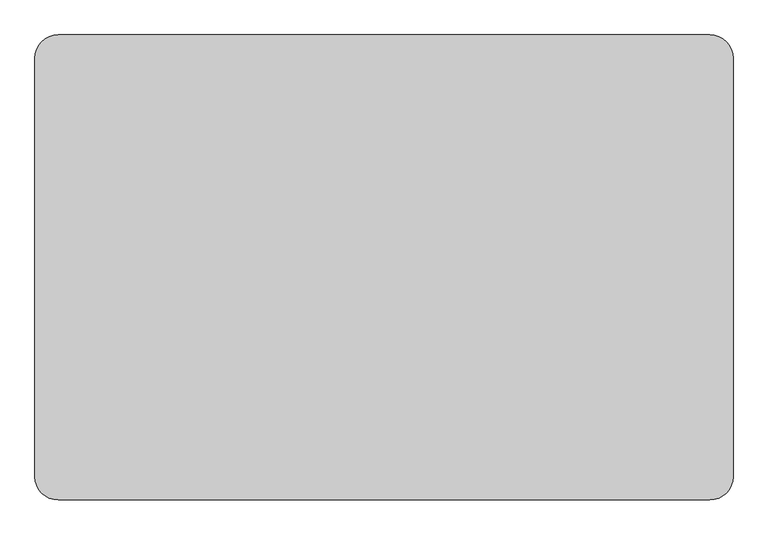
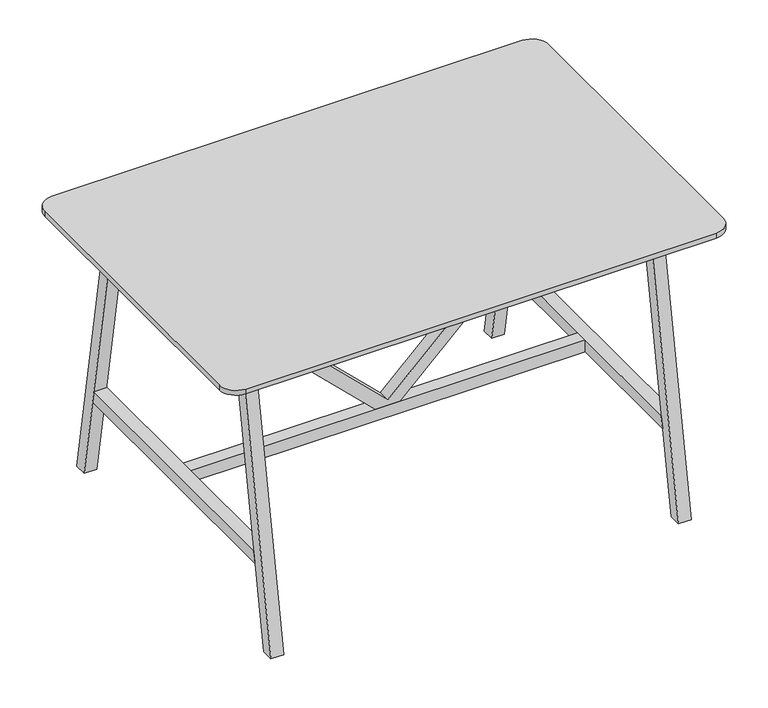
"""IFC4 building model written with IfcOpenShell, lengths in millimetres: furniture geometry, BDG_BossDesign_Tbls_AgentTables4Legs : AGE-HT-1800-1200-3D."""

from ifc_helpers import new_model, si_unit, point, frame, frame_2d, origin, place, context, project, spatial, polyline, circle_curve, trimmed, segment, composite_curve, outline, extrude, source, transform, mapped, element, save


def furniture_f843278e(model_context):
    return source(origin(), model_context, "Body", "SweptSolid", [
        extrude(outline(polyline([(1029.0, -705.0), (985.6193848, -705.0), (345.0, -44.0212994), (345.0, 44.0212994), (985.6193848, 705.0), (1029.0, 705.0), (1029.0, 685.1023991), (364.9999695, 0.0), (1029.0, -685.1023991), (1029.0, -705.0)])), frame((0.0, -22.5000305, 0.0), z_axis=(0.0, 1.0, 0.0), x_axis=(0.0, 0.0, 1.0)), (0.0, 0.0, 1.0), 45.000061),
        extrude(outline(polyline([(-494.7139143, 345.0), (494.7139143, 345.0), (502.5773161, 300.0), (-502.5773161, 300.0), (-494.7139143, 345.0)])), frame((705.0, 0.0, 0.0), z_axis=(1.0, 0.0, 0.0), x_axis=(0.0, 1.0, 0.0)), (0.0, 0.0, 1.0), 45.0),
        extrude(outline(polyline([(600.0, 0.0), (554.9999949, 0.0), (385.5, 970.0), (430.5000051, 970.0), (600.0, 0.0)])), frame((-750.0, 0.0, 0.0), z_axis=(1.0, 0.0, 0.0), x_axis=(0.0, 1.0, 0.0)), (0.0, 0.0, 1.0), 45.0),
        extrude(outline(polyline([(-600.0, 0.0), (-430.5000051, 970.0), (-385.5, 970.0), (-554.9999949, 0.0), (-600.0, 0.0)])), frame((-750.0, 0.0, 0.0), z_axis=(1.0, 0.0, 0.0), x_axis=(0.0, 1.0, 0.0)), (0.0, 0.0, 1.0), 45.0),
        extrude(outline(polyline([(-379.5, 1032.0), (379.5, 1032.0), (397.9691272, 960.0), (-397.9691272, 960.0), (-379.5, 1032.0)])), frame((288.0, 0.0, 0.0), z_axis=(1.0, 0.0, 0.0), x_axis=(0.0, 1.0, 0.0)), (0.0, 0.0, 1.0), 24.0),
        extrude(outline(polyline([(-494.7139143, 345.0), (494.7139143, 345.0), (502.5773161, 300.0), (-502.5773161, 300.0), (-494.7139143, 345.0)])), frame((-750.0, 0.0, 0.0), z_axis=(1.0, 0.0, 0.0), x_axis=(0.0, 1.0, 0.0)), (0.0, 0.0, 1.0), 45.0),
        extrude(outline(polyline([(-379.5, 1032.0), (379.5, 1032.0), (397.9691272, 960.0), (-397.9691272, 960.0), (-379.5, 1032.0)])), frame((-312.0, 0.0, 0.0), z_axis=(1.0, 0.0, 0.0), x_axis=(0.0, 1.0, 0.0)), (0.0, 0.0, 1.0), 24.0),
        extrude(outline(polyline([(-426.6006165, 944.973938), (-404.2770691, 1032.0), (-379.5, 1032.0), (-401.8235474, 944.973938), (-426.6006165, 944.973938)])), frame((-705.0, 0.0, 0.0), z_axis=(1.0, 0.0, 0.0), x_axis=(0.0, 1.0, 0.0)), (0.0, 0.0, 1.0), 1410.0),
        extrude(outline(polyline([(426.6006165, 944.973938), (401.8235474, 944.973938), (379.5, 1032.0), (404.2770691, 1032.0), (426.6006165, 944.973938)])), frame((-705.0, 0.0, 0.0), z_axis=(1.0, 0.0, 0.0), x_axis=(0.0, 1.0, 0.0)), (0.0, 0.0, 1.0), 1410.0),
        extrude(outline(polyline([(599.7999878, 0.0), (554.7999827, 0.0), (385.5, 970.0), (430.5000051, 970.0), (599.7999878, 0.0)])), frame((705.0, 0.0, 0.0), z_axis=(1.0, 0.0, 0.0), x_axis=(0.0, 1.0, 0.0)), (0.0, 0.0, 1.0), 45.0),
        extrude(outline(polyline([(-599.7999878, 0.0), (-430.5000051, 970.0), (-385.5, 970.0), (-554.7999827, 0.0), (-599.7999878, 0.0)])), frame((705.0, 0.0, 0.0), z_axis=(1.0, 0.0, 0.0), x_axis=(0.0, 1.0, 0.0)), (0.0, 0.0, 1.0), 45.0),
        extrude(outline(polyline([(705.0, 22.5000305), (705.0, -22.5000305), (-705.0, -22.5000305), (-705.0, 22.5000305), (705.0, 22.5000305)])), frame((0.0, 0.0, 300.0), z_axis=(0.0, 0.0, 1.0), x_axis=(1.0, 0.0, 0.0)), (0.0, 0.0, 1.0), 45.0),
        extrude(outline(composite_curve([segment(trimmed(circle_curve(frame_2d((840.0, 540.0)), 60.0), [point((840.0, 600.0))], [point((900.0, 540.0))], False, "CARTESIAN"), True, "CONTINUOUS"), segment(polyline([(900.0, 540.0), (900.0, -540.0)]), True, "CONTINUOUS"), segment(trimmed(circle_curve(frame_2d((840.0, -540.0)), 60.0), [point((900.0, -540.0))], [point((840.0, -600.0))], False, "CARTESIAN"), True, "CONTINUOUS"), segment(polyline([(840.0, -600.0), (-840.0, -600.0)]), True, "CONTINUOUS"), segment(trimmed(circle_curve(frame_2d((-840.0, -540.0)), 60.0), [point((-840.0, -600.0))], [point((-900.0, -540.0))], False, "CARTESIAN"), True, "CONTINUOUS"), segment(polyline([(-900.0, -540.0), (-900.0, 540.0)]), True, "CONTINUOUS"), segment(trimmed(circle_curve(frame_2d((-840.0, 540.0)), 60.0), [point((-900.0, 540.0))], [point((-840.0, 600.0))], False, "CARTESIAN"), True, "CONTINUOUS"), segment(polyline([(-840.0, 600.0), (840.0, 600.0)]), True, "CONTINUOUS")], self_intersect=False)), frame((0.0, 0.0, 1032.0), z_axis=(0.0, 0.0, 1.0), x_axis=(1.0, 0.0, 0.0)), (0.0, 0.0, 1.0), 18.0),
    ])


if __name__ == "__main__":
    model = new_model("IFC4")
    model_context = context("Model", 3, world=origin())
    ifc_project = project(units=[si_unit("LENGTHUNIT", "METRE", prefix="MILLI")], contexts=[model_context])
    site = spatial("IfcSite", under=ifc_project)
    building = spatial("IfcBuilding", under=site)
    placement = place(None, origin())
    furniture_shape = furniture_f843278e(model_context)
    element("IfcFurniture", 1, ObjectType="BDG_BossDesign_Tbls_AgentTables4Legs : AGE-HT-1800-1200-3D", at=placement, inside=building, context=model_context, shape_type="MappedRepresentation", body=[
        mapped(furniture_shape, transform((0.0, 0.0, 0.0), x_axis=(1.0, 0.0, 0.0), y_axis=(0.0, 1.0, 0.0), z_axis=(0.0, 0.0, 1.0))),
    ])
    save(model, "model.ifc")
